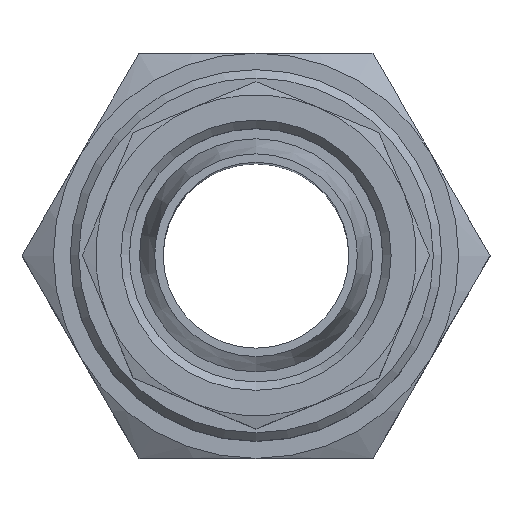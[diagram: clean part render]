
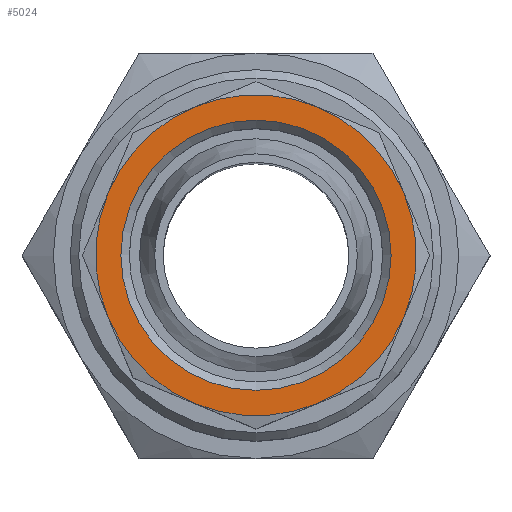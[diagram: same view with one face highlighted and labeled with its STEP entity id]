
A CAD part, top view. The second image highlights one B-rep face of the part: STEP entity #5024.
In plain terms, the highlighted planar face has unit normal (0, 0, 1) as drawn and (0, 1, 0) by its records, which use the part's own axes.
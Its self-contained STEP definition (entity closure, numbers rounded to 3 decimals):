
#2434=ORIENTED_EDGE('',*,*,#3057,.F.);
#2435=ORIENTED_EDGE('',*,*,#3058,.F.);
#2436=ORIENTED_EDGE('',*,*,#3059,.F.);
#2437=ORIENTED_EDGE('',*,*,#3060,.F.);
#2438=ORIENTED_EDGE('',*,*,#3061,.F.);
#2439=ORIENTED_EDGE('',*,*,#3062,.F.);
#2440=ORIENTED_EDGE('',*,*,#3063,.F.);
#2441=ORIENTED_EDGE('',*,*,#3064,.F.);
#2442=ORIENTED_EDGE('',*,*,#3056,.T.);
#2832=CIRCLE('',#4710,8.);
#2833=CIRCLE('',#4712,9.5);
#2834=CIRCLE('',#4713,9.5);
#2835=CIRCLE('',#4714,9.5);
#2836=CIRCLE('',#4715,9.5);
#2837=CIRCLE('',#4716,9.5);
#2838=CIRCLE('',#4717,9.5);
#2839=CIRCLE('',#4718,9.5);
#2840=CIRCLE('',#4719,9.5);
#2916=VERTEX_POINT('',#4254);
#2917=VERTEX_POINT('',#4257);
#2918=VERTEX_POINT('',#4258);
#2919=VERTEX_POINT('',#4260);
#2920=VERTEX_POINT('',#4262);
#2921=VERTEX_POINT('',#4264);
#2922=VERTEX_POINT('',#4266);
#2923=VERTEX_POINT('',#4268);
#2924=VERTEX_POINT('',#4270);
#3056=EDGE_CURVE('',#2916,#2916,#2832,.T.);
#3057=EDGE_CURVE('',#2917,#2918,#2833,.T.);
#3058=EDGE_CURVE('',#2919,#2917,#2834,.T.);
#3059=EDGE_CURVE('',#2920,#2919,#2835,.T.);
#3060=EDGE_CURVE('',#2921,#2920,#2836,.T.);
#3061=EDGE_CURVE('',#2922,#2921,#2837,.T.);
#3062=EDGE_CURVE('',#2923,#2922,#2838,.T.);
#3063=EDGE_CURVE('',#2924,#2923,#2839,.T.);
#3064=EDGE_CURVE('',#2918,#2924,#2840,.T.);
#3282=EDGE_LOOP('',(#2434,#2435,#2436,#2437,#2438,#2439,#2440,#2441));
#3283=EDGE_LOOP('',(#2442));
#3446=FACE_BOUND('',#3282,.T.);
#3447=FACE_BOUND('',#3283,.T.);
#3650=DIRECTION('',(0.,-1.,0.));
#3651=DIRECTION('',(0.,0.,-8.));
#3652=DIRECTION('',(0.,1.,0.));
#3653=DIRECTION('',(1.,0.,0.));
#3654=DIRECTION('',(0.,-1.,0.));
#3655=DIRECTION('',(0.,0.,9.5));
#3656=DIRECTION('',(0.,-1.,0.));
#3657=DIRECTION('',(0.,0.,9.5));
#3658=DIRECTION('',(0.,-1.,0.));
#3659=DIRECTION('',(0.,0.,9.5));
#3660=DIRECTION('',(0.,-1.,0.));
#3661=DIRECTION('',(0.,0.,9.5));
#3662=DIRECTION('',(0.,-1.,0.));
#3663=DIRECTION('',(0.,0.,9.5));
#3664=DIRECTION('',(0.,-1.,0.));
#3665=DIRECTION('',(0.,0.,9.5));
#3666=DIRECTION('',(0.,-1.,0.));
#3667=DIRECTION('',(0.,0.,9.5));
#3668=DIRECTION('',(0.,-1.,0.));
#3669=DIRECTION('',(0.,0.,9.5));
#4254=CARTESIAN_POINT('',(26.989,30.595,-8.));
#4255=CARTESIAN_POINT('',(26.989,30.595,0.));
#4256=CARTESIAN_POINT('',(30.624,30.595,8.777));
#4257=CARTESIAN_POINT('',(18.212,30.595,-3.635));
#4258=CARTESIAN_POINT('',(23.353,30.595,-8.777));
#4259=CARTESIAN_POINT('',(26.989,30.595,0.));
#4260=CARTESIAN_POINT('',(18.212,30.595,3.635));
#4261=CARTESIAN_POINT('',(26.989,30.595,0.));
#4262=CARTESIAN_POINT('',(23.353,30.595,8.777));
#4263=CARTESIAN_POINT('',(26.989,30.595,0.));
#4264=CARTESIAN_POINT('',(30.624,30.595,8.777));
#4265=CARTESIAN_POINT('',(26.989,30.595,0.));
#4266=CARTESIAN_POINT('',(35.766,30.595,3.635));
#4267=CARTESIAN_POINT('',(26.989,30.595,0.));
#4268=CARTESIAN_POINT('',(35.766,30.595,-3.635));
#4269=CARTESIAN_POINT('',(26.989,30.595,0.));
#4270=CARTESIAN_POINT('',(30.624,30.595,-8.777));
#4271=CARTESIAN_POINT('',(26.989,30.595,0.));
#4272=CARTESIAN_POINT('',(26.989,30.595,0.));
#4710=AXIS2_PLACEMENT_3D('',#4255,#3650,#3651);
#4711=AXIS2_PLACEMENT_3D('',#4256,#3652,#3653);
#4712=AXIS2_PLACEMENT_3D('',#4259,#3654,#3655);
#4713=AXIS2_PLACEMENT_3D('',#4261,#3656,#3657);
#4714=AXIS2_PLACEMENT_3D('',#4263,#3658,#3659);
#4715=AXIS2_PLACEMENT_3D('',#4265,#3660,#3661);
#4716=AXIS2_PLACEMENT_3D('',#4267,#3662,#3663);
#4717=AXIS2_PLACEMENT_3D('',#4269,#3664,#3665);
#4718=AXIS2_PLACEMENT_3D('',#4271,#3666,#3667);
#4719=AXIS2_PLACEMENT_3D('',#4272,#3668,#3669);
#4968=PLANE('',#4711);
#5024=ADVANCED_FACE('',(#3446,#3447),#4968,.T.);
